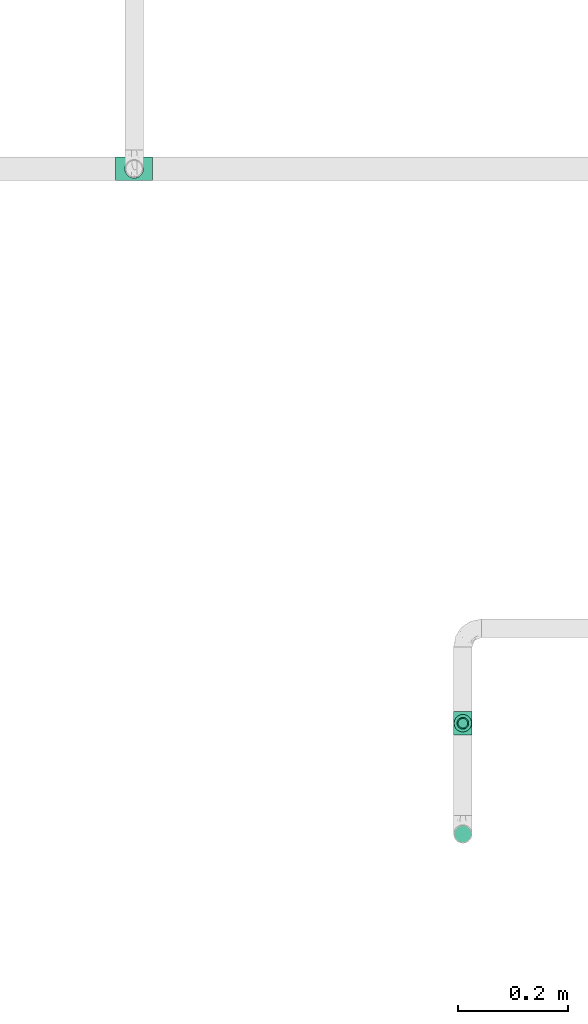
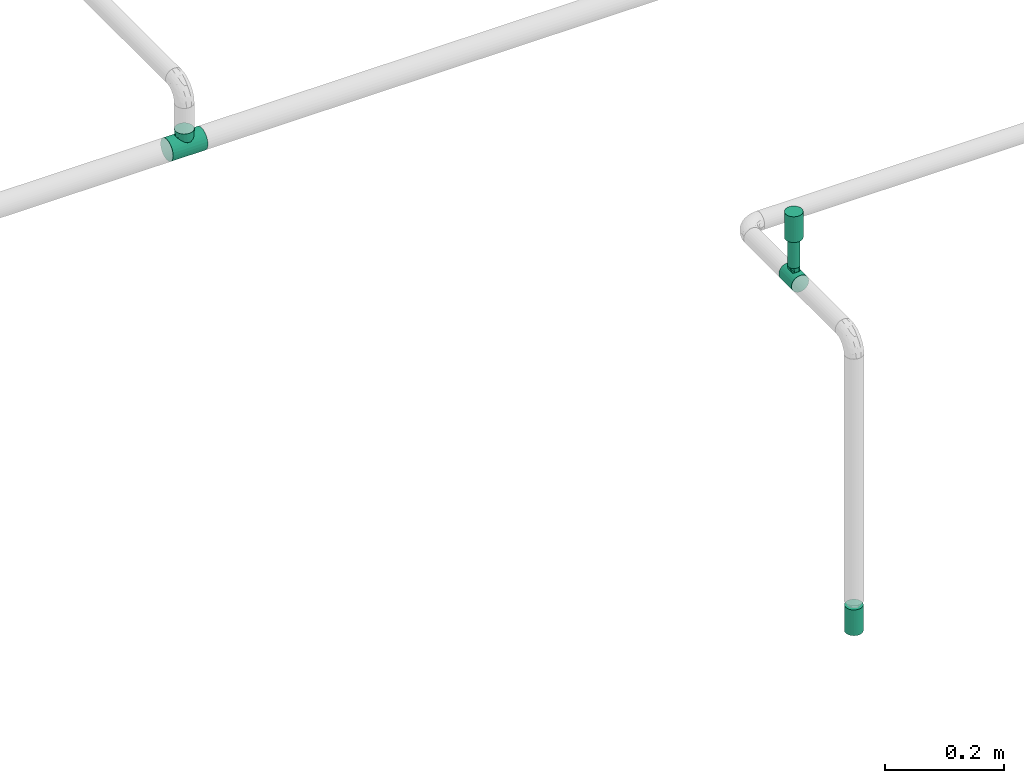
# One storey, part 28 of 51: 2 flow fittings, 2 flow terminals, 1 flow segment.
"""IFC2X3 building model written with IfcOpenShell, lengths in millimetres."""

from ifc_helpers import new_model, entity, si_unit, converted_unit, derived_unit, direction, frame, origin_with_axes, origin_2d_with_axis, place, context, subcontext, project, spatial, hollow_circle, extrude, open_shell, surface_model, source, transform, mapped, type_object, element, save


model = new_model("IFC2X3")

# Units and contexts
model_context = context("Model", 3, precision=0.01, world=frame((0.0, 4.29681676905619e-09, 0.0)), true_north=direction((4.01073788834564e-13, 1.0)))
plan_context = context("Plan", 3, precision=0.01, world=frame((0.0, 4.29681676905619e-09, 0.0)), true_north=direction((4.01073788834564e-13, 1.0)))
body_context = subcontext(model_context, "Body", "Model", "MODEL_VIEW")
ifc_project = project(units=[converted_unit("PLANEANGLEUNIT", "DEGREE", entity("IfcPositiveLengthMeasure", 0.0174532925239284), si_unit("PLANEANGLEUNIT", "RADIAN"), dimensions=[0, 0, 0, 0, 0, 0, 0]), si_unit("AREAUNIT", "SQUARE_METRE"), si_unit("LENGTHUNIT", "METRE", prefix="MILLI"), si_unit("MASSUNIT", "GRAM", prefix="KILO"), si_unit("POWERUNIT", "WATT"), si_unit("PRESSUREUNIT", "PASCAL"), si_unit("FORCEUNIT", "NEWTON", prefix="KILO"), si_unit("ELECTRICVOLTAGEUNIT", "VOLT"), si_unit("ELECTRICCURRENTUNIT", "AMPERE"), si_unit("THERMODYNAMICTEMPERATUREUNIT", "DEGREE_CELSIUS"), si_unit("TIMEUNIT", "SECOND"), si_unit("VOLUMEUNIT", "CUBIC_METRE"), derived_unit("LINEARVELOCITYUNIT", [(si_unit("LENGTHUNIT", "METRE"), 1), (si_unit("TIMEUNIT", "SECOND"), -1)]), derived_unit("VOLUMETRICFLOWRATEUNIT", [(si_unit("VOLUMEUNIT", "CUBIC_METRE"), 1), (si_unit("TIMEUNIT", "SECOND"), -1)]), derived_unit("THERMALTRANSMITTANCEUNIT", [(si_unit("POWERUNIT", "WATT"), 1), (si_unit("THERMODYNAMICTEMPERATUREUNIT", "KELVIN"), -1), (si_unit("AREAUNIT", "SQUARE_METRE"), -1)]), derived_unit("SOUNDPRESSUREUNIT", [(si_unit("PRESSUREUNIT", "PASCAL"), 1)])], contexts=[model_context, plan_context])

# Site, building, storey
site_placement = place(None, frame((0.0, -4.29681676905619e-09, 0.0), z_axis=(0.0, 0.0, 1.0), x_axis=(1.0, 0.0, 0.0)))
site = spatial("IfcSite", under=ifc_project, at=site_placement, Name="ENGM", CompositionType="ELEMENT")
building_placement = place(site_placement, frame((0.0, 4.29681676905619e-09, 0.0), z_axis=(0.0, 0.0, 1.0), x_axis=(1.0, 0.0, 0.0)))
building = spatial("IfcBuilding", under=site, at=building_placement, Name="TH", CompositionType="ELEMENT")
storey_placement = place(building_placement, frame((0.0, 0.0, 210200.0), z_axis=(0.0, 0.0, 1.0), x_axis=(1.0, 0.0, 0.0)))
storey = spatial("IfcBuildingStorey", under=building, at=storey_placement, Name="Nivå F - 0,7 m", CompositionType="ELEMENT", Elevation=210200.0)

# Flow fittings
pipe_fitting_type = type_object("IfcPipeFittingType", Name="magi_pipe_fe_tee_centric_90_NOR", PredefinedType="JUNCTION")
shared_shape_1 = source(origin_with_axes(), body_context, "Body", "SurfaceModel", [
    surface_model("IfcShellBasedSurfaceModel", [(-33.8, 0.0, -21.2), (-33.8, -5.48696, -20.47763), (-33.8, 5.48696, -20.47763), (-33.8, 10.6, -18.35974), (-33.8, 14.99066, -14.99066), (-33.8, -20.47763, 5.48696), (-33.8, 18.35974, -10.6), (-33.8, 10.6, 18.35974), (-33.8, -14.99066, -14.99066), (-33.8, -18.35974, -10.6), (-33.8, -10.6, -18.35974), (-33.8, -20.47763, -5.48696), (-33.8, -21.2, 0.0), (-33.8, 18.35974, 10.6), (-33.8, 20.47763, -5.48696), (-33.8, 20.47763, 5.48696), (-33.8, 21.2, 0.0), (-33.8, 14.99066, 14.99066), (-33.8, 5.48696, 20.47763), (-33.8, 0.0, 21.2), (-33.8, -18.35974, 10.6), (-33.8, -14.99066, 14.99066), (-33.8, -10.6, 18.35974), (-33.8, -5.48696, 20.47763), (33.8, 5.48696, -20.47763), (33.8, -5.48696, -20.47763), (33.8, 0.0, -21.2), (33.8, 14.99066, -14.99066), (33.8, 10.6, -18.35974), (33.8, 18.35974, -10.6), (33.8, 20.47763, -5.48696), (33.8, -21.2, 0.0), (33.8, -10.6, -18.35974), (33.8, -18.35974, -10.6), (33.8, -14.99066, -14.99066), (33.8, -20.47763, -5.48696), (33.8, -20.47763, 5.48696), (33.8, 21.2, 0.0), (33.8, 20.47763, 5.48696), (33.8, 18.35974, 10.6), (33.8, 10.6, 18.35974), (33.8, 14.99066, 14.99066), (33.8, 0.0, 21.2), (33.8, 5.48696, 20.47763), (33.8, -14.99066, 14.99066), (33.8, -18.35974, 10.6), (33.8, -10.6, 18.35974), (33.8, -5.48696, 20.47763), (16.9, -21.2, 0.0), (15.78624, -20.32327, 6.03364), (12.81343, -18.11115, 11.01935), (8.52479, -15.37862, 14.59239), (3.07939, -13.16482, 16.61708), (-16.9, -21.2, 0.0), (-15.78686, -20.32375, 6.032), (-8.52604, -15.37932, 14.59166), (-3.0848, -13.16609, 16.61608), (-12.81602, -18.11299, 11.01634), (3.07939, -13.16482, -16.61708), (12.81343, -18.11115, -11.01935), (8.52479, -15.37862, -14.59239), (15.78624, -20.32327, -6.03364), (-3.0848, -13.16609, -16.61608), (-8.52604, -15.37932, -14.59166), (-12.81602, -18.11299, -11.01634), (-15.78686, -20.32375, -6.032), (4.37404, -31.8, -16.32415), (-16.9, -31.8, 0.0), (0.0, -31.8, -16.9), (14.63583, -31.8, -8.45), (8.45, -31.8, -14.63583), (16.32415, -31.8, -4.37404), (11.9501, -31.8, -11.9501), (-11.9501, -31.8, -11.9501), (-8.45, -31.8, -14.63583), (-4.37404, -31.8, -16.32415), (-14.63583, -31.8, -8.45), (-16.32415, -31.8, -4.37404), (16.9, -31.8, 0.0), (8.45, -31.8, 14.63583), (16.32415, -31.8, 4.37404), (14.63583, -31.8, 8.45), (-8.45, -31.8, 14.63583), (11.9501, -31.8, 11.9501), (4.37404, -31.8, 16.32415), (-16.32415, -31.8, 4.37404), (-11.9501, -31.8, 11.9501), (-14.63583, -31.8, 8.45), (0.0, -31.8, 16.9), (-4.37404, -31.8, 16.32415), (-16.34343, -20.76188, 3.016), (16.34312, -20.76163, 3.01682), (-0.00271, -13.16546, 16.61658), (16.34312, -20.76163, -3.01682), (-0.00271, -13.16546, -16.61658), (-16.34343, -20.76188, -3.016)], [open_shell([[[0, 1, 2]], [[3, 2, 4]], [[5, 2, 1]], [[4, 2, 6]], [[6, 2, 7]], [[8, 9, 10]], [[1, 10, 9]], [[9, 11, 1]], [[12, 1, 11]], [[5, 1, 12]], [[13, 14, 6]], [[13, 15, 16]], [[6, 7, 13]], [[5, 7, 2]], [[17, 13, 7]], [[18, 7, 19]], [[20, 21, 5]], [[22, 5, 21]], [[23, 19, 22]], [[7, 5, 22]], [[22, 19, 7]], [[16, 14, 13]], [[24, 25, 26]], [[27, 24, 28]], [[29, 30, 24]], [[29, 24, 27]], [[31, 24, 30]], [[32, 33, 34]], [[33, 32, 25]], [[33, 31, 35]], [[31, 33, 25]], [[25, 24, 31]], [[30, 36, 31]], [[37, 38, 39]], [[37, 39, 40]], [[37, 40, 36]], [[40, 39, 41]], [[42, 40, 43]], [[36, 44, 45]], [[44, 36, 46]], [[46, 42, 47]], [[46, 36, 40]], [[40, 42, 46]], [[37, 36, 30]], [[31, 36, 48]], [[49, 48, 36]], [[36, 45, 49]], [[45, 44, 50]], [[51, 50, 44]], [[52, 51, 44]], [[44, 46, 52]], [[45, 50, 49]], [[53, 54, 5]], [[5, 12, 53]], [[54, 20, 5]], [[55, 56, 21]], [[20, 57, 21]], [[57, 20, 54]], [[21, 57, 55]], [[56, 22, 21]], [[52, 22, 56]], [[19, 47, 42]], [[23, 46, 47]], [[18, 42, 43]], [[39, 38, 15]], [[17, 40, 41]], [[13, 41, 39]], [[43, 40, 7]], [[16, 38, 37]], [[22, 46, 23]], [[23, 47, 19]], [[18, 19, 42]], [[43, 7, 18]], [[7, 40, 17]], [[13, 17, 41]], [[15, 13, 39]], [[38, 16, 15]], [[46, 22, 52]], [[6, 30, 29]], [[14, 37, 30]], [[4, 29, 27]], [[26, 25, 1]], [[2, 28, 24]], [[0, 24, 26]], [[27, 28, 3]], [[10, 25, 32]], [[16, 37, 14]], [[14, 30, 6]], [[4, 6, 29]], [[27, 3, 4]], [[3, 28, 2]], [[0, 2, 24]], [[1, 0, 26]], [[25, 10, 1]], [[32, 58, 10]], [[34, 59, 60]], [[59, 34, 33]], [[60, 58, 34]], [[34, 58, 32]], [[35, 31, 48]], [[35, 61, 33]], [[61, 35, 48]], [[33, 61, 59]], [[62, 63, 8]], [[8, 64, 9]], [[64, 8, 63]], [[62, 8, 10]], [[65, 53, 11]], [[65, 11, 9]], [[11, 53, 12]], [[65, 9, 64]], [[58, 62, 10]], [[66, 67, 68]], [[69, 66, 70]], [[69, 71, 66]], [[69, 70, 72]], [[67, 66, 71]], [[68, 73, 74]], [[74, 75, 68]], [[76, 67, 77]], [[73, 68, 76]], [[67, 76, 68]], [[71, 78, 67]], [[79, 78, 80]], [[79, 80, 81]], [[82, 67, 79]], [[79, 81, 83]], [[82, 79, 84]], [[85, 86, 87]], [[86, 85, 82]], [[82, 88, 89]], [[85, 67, 82]], [[84, 88, 82]], [[79, 67, 78]], [[85, 90, 67]], [[57, 87, 86]], [[85, 87, 54]], [[86, 82, 55]], [[85, 54, 90]], [[90, 53, 67]], [[54, 87, 57]], [[91, 49, 80]], [[55, 89, 56]], [[55, 57, 86]], [[88, 52, 92]], [[55, 82, 89]], [[52, 88, 84]], [[79, 51, 84]], [[50, 83, 81]], [[83, 51, 79]], [[81, 80, 49]], [[83, 50, 51]], [[51, 52, 84]], [[78, 91, 80]], [[49, 50, 81]], [[91, 78, 48]], [[88, 56, 89]], [[92, 56, 88]], [[71, 93, 78]], [[59, 69, 72]], [[71, 69, 61]], [[72, 70, 60]], [[93, 48, 78]], [[61, 69, 59]], [[60, 66, 58]], [[60, 59, 72]], [[68, 62, 94]], [[60, 70, 66]], [[95, 67, 53]], [[95, 65, 77]], [[71, 61, 93]], [[75, 62, 68]], [[65, 76, 77]], [[73, 76, 64]], [[68, 58, 66]], [[75, 63, 62]], [[63, 75, 74]], [[74, 73, 63]], [[63, 73, 64]], [[64, 76, 65]], [[67, 95, 77]], [[94, 58, 68]]])]),
])
flow_fitting_1_placement = place(storey_placement, frame((896499.91443, 487040.10129, 2819.99995999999), z_axis=(0.0, 1.0, 0.0), x_axis=(1.0, 0.0, 0.0)))
element("IfcFlowFitting", 1, at=flow_fitting_1_placement, inside=storey, type_object=pipe_fitting_type, Name="magi_pipe_fe_tee_centric_90_NOR", context=body_context, shape_type="MappedRepresentation", body=[
    mapped(shared_shape_1, transform((0.0, 0.0, 0.0), scale=1.0)),
])
shared_shape_2 = source(origin_with_axes(), body_context, "Body", "SurfaceModel", [
    surface_model("IfcShellBasedSurfaceModel", [(-21.4, 0.0, -16.9), (-21.4, -16.9, 0.0), (-21.4, 4.37404, -16.32415), (-21.4, 8.45, -14.63583), (-21.4, 11.9501, -11.9501), (-21.4, 16.32415, -4.37404), (-21.4, 14.63583, -8.45), (-21.4, -16.32415, 4.37404), (-21.4, -11.9501, -11.9501), (-21.4, -14.63583, -8.45), (-21.4, -8.45, -14.63583), (-21.4, -4.37404, -16.32415), (-21.4, -16.32415, -4.37404), (-21.4, 16.32415, 4.37404), (-21.4, 16.9, 0.0), (-21.4, 8.45, 14.63583), (-21.4, 14.63583, 8.45), (-21.4, -8.45, 14.63583), (-21.4, 11.9501, 11.9501), (-21.4, 4.37404, 16.32415), (-21.4, -11.9501, 11.9501), (-21.4, -14.63583, 8.45), (-21.4, -4.37404, 16.32415), (-21.4, 0.0, 16.9), (21.4, 4.37404, -16.32415), (21.4, -16.32415, -4.37404), (21.4, 0.0, -16.9), (21.4, 14.63583, -8.45), (21.4, 8.45, -14.63583), (21.4, 8.45, 14.63583), (21.4, 11.9501, -11.9501), (21.4, -11.9501, -11.9501), (21.4, -8.45, -14.63583), (21.4, -4.37404, -16.32415), (21.4, -14.63583, -8.45), (21.4, -16.9, 0.0), (21.4, 16.32415, -4.37404), (21.4, 16.32415, 4.37404), (21.4, 14.63583, 8.45), (21.4, -8.45, 14.63583), (21.4, 11.9501, 11.9501), (21.4, 4.37404, 16.32415), (21.4, -14.63583, 8.45), (21.4, -11.9501, 11.9501), (21.4, -16.32415, 4.37404), (21.4, 0.0, 16.9), (21.4, -4.37404, 16.32415), (21.4, 16.9, 0.0), (10.02449, -16.48061, 3.7416), (10.7, -16.9, 0.0), (8.16297, -15.41927, 6.9178), (5.39457, -14.14996, 9.24059), (21.4, -15.47999, 6.41202), (1.90748, -13.21962, 10.5286), (-8.16537, -15.42055, 6.91497), (-21.4, -15.47999, 6.41202), (-10.02486, -16.48083, 3.74061), (-21.4, -16.61207, 2.18702), (-10.36243, -16.69042, 1.8703), (-10.7, -16.9, 0.0), (-5.39553, -14.15033, 9.24003), (-1.91068, -13.22009, 10.52802), (-8.16537, -15.42055, -6.91497), (-21.4, -15.47999, -6.41202), (8.16297, -15.41927, -6.9178), (21.4, -15.47999, -6.41202), (-10.36243, -16.69042, -1.8703), (5.39457, -14.14996, -9.24059), (-21.4, -16.61207, -2.18702), (-10.02486, -16.48083, -3.74061), (1.90748, -13.21962, -10.5286), (10.02449, -16.48061, -3.7416), (-1.91068, -13.22009, -10.52802), (-5.39553, -14.15033, -9.24003), (0.0, -25.35, -10.7), (2.76936, -25.35, -10.33541), (5.35, -25.35, -9.26647), (7.56604, -25.35, -7.56604), (10.33541, -25.35, 2.76936), (9.26647, -25.35, -5.35), (-7.56604, -25.35, -7.56604), (2.76936, -25.35, 10.33541), (-10.7, -25.35, 0.0), (-5.35, -25.35, -9.26647), (-2.76936, -25.35, -10.33541), (-9.26647, -25.35, -5.35), (-10.33541, -25.35, -2.76936), (10.7, -25.35, 0.0), (10.33541, -25.35, -2.76936), (9.26647, -25.35, 5.35), (5.35, -25.35, 9.26647), (7.56604, -25.35, 7.56604), (0.0, -25.35, 10.7), (-10.33541, -25.35, 2.76936), (-7.56604, -25.35, 7.56604), (-9.26647, -25.35, 5.35), (-2.76936, -25.35, 10.33541), (-5.35, -25.35, 9.26647)], [open_shell([[[0, 1, 2]], [[3, 2, 4]], [[2, 5, 6]], [[4, 2, 6]], [[2, 1, 7]], [[8, 9, 10]], [[0, 11, 10]], [[12, 1, 9]], [[10, 9, 1]], [[10, 1, 0]], [[7, 5, 2]], [[13, 14, 15]], [[16, 13, 15]], [[17, 15, 14]], [[18, 16, 15]], [[19, 15, 17]], [[20, 17, 21]], [[7, 21, 17]], [[22, 23, 17]], [[14, 7, 17]], [[17, 23, 19]], [[5, 7, 14]], [[24, 25, 26]], [[27, 24, 28]], [[25, 24, 29]], [[27, 28, 30]], [[29, 24, 27]], [[26, 31, 32]], [[32, 33, 26]], [[26, 25, 34]], [[31, 26, 34]], [[35, 25, 29]], [[27, 36, 37]], [[37, 38, 27]], [[27, 38, 29]], [[39, 35, 29]], [[29, 38, 40]], [[39, 29, 41]], [[42, 39, 43]], [[39, 42, 44]], [[39, 45, 46]], [[44, 35, 39]], [[41, 45, 39]], [[36, 47, 37]], [[35, 44, 48]], [[48, 49, 35]], [[44, 50, 48]], [[42, 43, 51]], [[50, 44, 52]], [[51, 50, 42]], [[53, 51, 43]], [[43, 20, 53]], [[42, 50, 52]], [[54, 21, 55]], [[56, 57, 58]], [[59, 58, 1]], [[56, 54, 7]], [[60, 61, 20]], [[1, 58, 57]], [[60, 21, 54]], [[21, 60, 20]], [[54, 55, 7]], [[61, 53, 20]], [[56, 7, 57]], [[43, 17, 20]], [[23, 46, 45]], [[22, 39, 46]], [[19, 45, 41]], [[38, 37, 13]], [[18, 29, 40]], [[16, 40, 38]], [[41, 29, 15]], [[14, 37, 47]], [[17, 39, 22]], [[22, 46, 23]], [[19, 23, 45]], [[41, 15, 19]], [[15, 29, 18]], [[16, 18, 40]], [[13, 16, 38]], [[37, 14, 13]], [[39, 17, 43]], [[14, 47, 36]], [[36, 27, 5]], [[30, 6, 27]], [[11, 26, 33]], [[2, 28, 24]], [[62, 12, 63]], [[26, 0, 24]], [[33, 32, 10]], [[30, 28, 3]], [[64, 34, 65]], [[6, 5, 27]], [[14, 36, 5]], [[30, 4, 6]], [[1, 66, 59]], [[3, 28, 2]], [[0, 2, 24]], [[26, 11, 0]], [[33, 10, 11]], [[4, 30, 3]], [[32, 8, 10]], [[31, 34, 67]], [[68, 69, 66]], [[67, 70, 31]], [[34, 64, 67]], [[31, 70, 8]], [[25, 35, 71]], [[71, 64, 25]], [[49, 71, 35]], [[25, 64, 65]], [[72, 73, 8]], [[9, 8, 73]], [[73, 62, 9]], [[72, 8, 70]], [[62, 69, 12]], [[69, 68, 12]], [[66, 1, 68]], [[62, 63, 9]], [[31, 8, 32]], [[74, 75, 76]], [[74, 76, 77]], [[78, 77, 79]], [[74, 77, 80]], [[81, 82, 77]], [[74, 83, 84]], [[74, 80, 83]], [[85, 82, 86]], [[82, 85, 80]], [[77, 82, 80]], [[87, 79, 88]], [[77, 78, 81]], [[81, 78, 89]], [[90, 81, 89]], [[90, 89, 91]], [[92, 82, 81]], [[93, 94, 95]], [[94, 93, 92]], [[94, 96, 97]], [[96, 94, 92]], [[82, 92, 93]], [[79, 87, 78]], [[59, 82, 93]], [[56, 95, 94]], [[93, 95, 59]], [[94, 97, 56]], [[59, 95, 56]], [[54, 56, 96]], [[61, 60, 51]], [[54, 50, 60]], [[96, 92, 54]], [[97, 96, 56]], [[81, 50, 92]], [[90, 48, 81]], [[48, 91, 89]], [[90, 91, 48]], [[49, 89, 78]], [[51, 53, 61]], [[50, 51, 60]], [[89, 49, 48]], [[48, 50, 81]], [[49, 78, 87]], [[54, 92, 50]], [[49, 87, 88]], [[71, 79, 77]], [[88, 79, 49]], [[77, 76, 71]], [[49, 79, 71]], [[64, 71, 75]], [[70, 67, 72]], [[64, 73, 67]], [[75, 74, 64]], [[76, 75, 71]], [[62, 74, 84]], [[83, 69, 84]], [[69, 80, 85]], [[83, 80, 69]], [[59, 85, 86]], [[73, 72, 67]], [[62, 73, 64]], [[85, 59, 69]], [[69, 62, 84]], [[59, 86, 82]], [[64, 74, 62]]])]),
])
flow_fitting_2_placement = place(storey_placement, frame((897100.0, 486027.77583, 2949.60000999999), z_axis=(1.0, 0.0, 0.0), x_axis=(0.0, -0.9999999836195, 0.00018099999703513)))
element("IfcFlowFitting", 2, at=flow_fitting_2_placement, inside=storey, type_object=pipe_fitting_type, Name="magi_pipe_fe_tee_centric_90_NOR", context=body_context, shape_type="MappedRepresentation", body=[
    mapped(shared_shape_2, transform((0.0, 0.0, 0.0), scale=1.0)),
])

# Flow segment
pipe_segment_type = type_object("IfcPipeSegmentType", Name="Stålrør normaltykke", PredefinedType="RIGIDSEGMENT")
shared_shape_3 = source(origin_with_axes(), body_context, "Body", "SweptSolid", [
    extrude(hollow_circle(Radius=10.7, WallThickness=2.0, at=origin_2d_with_axis()), frame((0.0, 0.0, 0.0), z_axis=(1.0, 0.0, 0.0), x_axis=(0.0, 1.0, 0.0)), (0.0, 0.0, 1.0), 60.1),
])
flow_segment_placement = place(storey_placement, frame((897100.0, 486027.81504, 3035.04800000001), z_axis=(0.0, 0.999999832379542, -0.000578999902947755), x_axis=(0.0, -0.000578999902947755, -0.999999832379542)))
element("IfcFlowSegment", 3, at=flow_segment_placement, inside=storey, type_object=pipe_segment_type, Name="Stålrør normaltykke", context=body_context, shape_type="MappedRepresentation", body=[
    mapped(shared_shape_3, transform((0.0, 0.0, 0.0), scale=1.0)),
])

# Flow terminals
fire_suppression_terminal_type_1 = type_object("IfcFireSuppressionTerminalType", Name="SP-15-K80-68DGR-STD-HIMLING", PredefinedType="NOTDEFINED")
shared_shape_4 = source(origin_with_axes(), body_context, "Body", "SurfaceModel", [
    surface_model("IfcShellBasedSurfaceModel", [(4.1411, -15.45481, 53.0), (8.0, -13.85641, 53.0), (11.31371, -11.31371, 53.0), (-8.0, -13.85641, 53.0), (15.45481, -4.1411, 53.0), (16.0, 0.0, 53.0), (13.85641, -8.0, 53.0), (0.0, -16.0, 53.0), (-4.1411, -15.45481, 53.0), (-13.85641, -8.0, 53.0), (-11.31371, -11.31371, 53.0), (-15.45481, -4.1411, 53.0), (15.45481, 4.1411, 53.0), (13.85641, 8.0, 53.0), (11.31371, 11.31371, 53.0), (-4.1411, 15.45481, 53.0), (8.0, 13.85641, 53.0), (4.1411, 15.45481, 53.0), (0.0, 16.0, 53.0), (-13.85641, 8.0, 53.0), (-15.45481, 4.1411, 53.0), (-16.0, 0.0, 53.0), (-11.31371, 11.31371, 53.0), (-8.0, 13.85641, 53.0), (0.0, 16.0, 0.0), (4.1411, 15.45481, 0.0), (8.0, 13.85641, 0.0), (-4.1411, 15.45481, 0.0), (11.31371, 11.31371, 0.0), (13.85641, 8.0, 0.0), (15.45481, 4.1411, 0.0), (-15.45481, -4.1411, 0.0), (-11.31371, 11.31371, 0.0), (-8.0, 13.85641, 0.0), (-13.85641, 8.0, 0.0), (-15.45481, 4.1411, 0.0), (-16.0, 0.0, 0.0), (4.1411, -15.45481, 0.0), (16.0, 0.0, 0.0), (15.45481, -4.1411, 0.0), (13.85641, -8.0, 0.0), (11.31371, -11.31371, 0.0), (8.0, -13.85641, 0.0), (-8.0, -13.85641, 0.0), (-13.85641, -8.0, 0.0), (-11.31371, -11.31371, 0.0), (0.0, -16.0, 0.0), (-4.1411, -15.45481, 0.0)], [open_shell([[[0, 1, 2]], [[3, 0, 2]], [[4, 5, 2]], [[4, 2, 6]], [[3, 2, 5]], [[7, 3, 8]], [[7, 0, 3]], [[3, 9, 10]], [[9, 3, 11]], [[5, 11, 3]], [[5, 12, 11]], [[12, 13, 14]], [[15, 12, 14]], [[16, 17, 18]], [[14, 16, 15]], [[18, 15, 16]], [[11, 19, 20]], [[21, 11, 20]], [[22, 15, 23]], [[15, 22, 19]], [[19, 11, 15]], [[11, 12, 15]], [[24, 25, 26]], [[27, 24, 26]], [[28, 29, 30]], [[27, 26, 28]], [[27, 28, 31]], [[27, 32, 33]], [[32, 27, 34]], [[34, 31, 35]], [[31, 34, 27]], [[35, 31, 36]], [[28, 30, 31]], [[37, 38, 39]], [[37, 39, 40]], [[41, 42, 37]], [[41, 37, 40]], [[38, 37, 43]], [[44, 43, 45]], [[43, 44, 31]], [[43, 46, 47]], [[43, 31, 38]], [[37, 46, 43]], [[38, 31, 30]], [[11, 31, 44]], [[45, 9, 44]], [[3, 43, 47]], [[45, 43, 10]], [[8, 47, 46]], [[31, 21, 36]], [[31, 11, 21]], [[44, 9, 11]], [[45, 10, 9]], [[3, 10, 43]], [[47, 8, 3]], [[46, 7, 8]], [[0, 37, 42]], [[41, 1, 42]], [[6, 40, 39]], [[41, 40, 2]], [[4, 39, 38]], [[37, 0, 7]], [[42, 1, 0]], [[41, 2, 1]], [[40, 6, 2]], [[4, 6, 39]], [[38, 5, 4]], [[37, 7, 46]], [[12, 38, 30]], [[13, 30, 29]], [[16, 26, 25]], [[17, 25, 24]], [[30, 13, 12]], [[12, 5, 38]], [[28, 14, 13]], [[28, 26, 14]], [[14, 26, 16]], [[25, 17, 16]], [[28, 13, 29]], [[24, 18, 17]], [[15, 27, 33]], [[32, 23, 33]], [[19, 34, 35]], [[32, 34, 22]], [[20, 35, 36]], [[27, 15, 18]], [[33, 23, 15]], [[32, 22, 23]], [[34, 19, 22]], [[20, 19, 35]], [[36, 21, 20]], [[27, 18, 24]]])]),
])
flow_terminal_1_placement = place(storey_placement, frame((897100.0, 485825.40642, 2400.0), z_axis=(0.0, 0.0, -1.0), x_axis=(-1.0, 0.0, 0.0)))
element("IfcFlowTerminal", 4, at=flow_terminal_1_placement, inside=storey, type_object=fire_suppression_terminal_type_1, Name="SP-15-K80-68DGR-STD-HIMLING", context=body_context, shape_type="MappedRepresentation", body=[
    mapped(shared_shape_4, transform((0.0, 0.0, 0.0), scale=1.0)),
])
fire_suppression_terminal_type_2 = type_object("IfcFireSuppressionTerminalType", Name="SP-15-K80-68DGR-STD-STÅENDE", PredefinedType="NOTDEFINED")
flow_terminal_2_placement = place(storey_placement, frame((897100.0, 486027.81504, 3032.0), z_axis=(0.0, 0.0, 1.0), x_axis=(1.0, 0.0, 0.0)))
element("IfcFlowTerminal", 5, at=flow_terminal_2_placement, inside=storey, type_object=fire_suppression_terminal_type_2, Name="SP-15-K80-68DGR-STD-STÅENDE", context=body_context, shape_type="MappedRepresentation", body=[
    mapped(shared_shape_4, transform((0.0, 0.0, 0.0), scale=1.0)),
])

save(model, "model.ifc")
